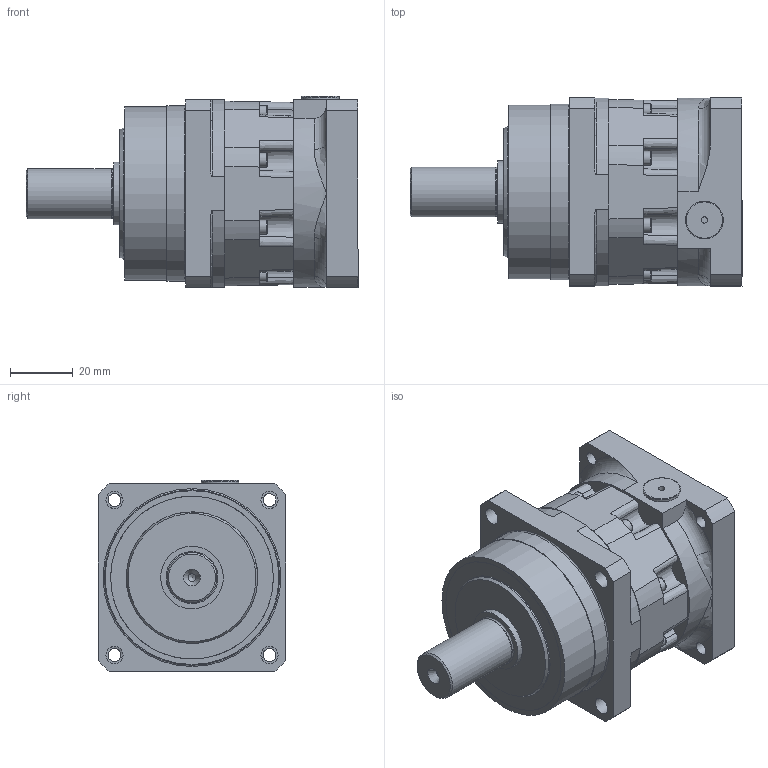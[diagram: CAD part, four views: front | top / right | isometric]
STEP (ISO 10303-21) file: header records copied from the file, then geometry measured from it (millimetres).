
FILE_DESCRIPTION(/* description */ ('ANFX-P110N-1-2R'),/* implementation_level */ '2;1');
FILE_NAME(/* name */ 'C:\Users\ADMINI~1\AppData\Local\Temp\MM580045_ANFX-P110N-1-2R.stp',/* time_stamp */ '2018-06-20T09:10:17+02:00',/* author */ ('Berger'),/* organization */ (''),/* preprocessor_version */ 'ST-DEVELOPER v17',/* originating_system */ 'Autodesk Inventor 2018',/* authorisation */ '');
FILE_SCHEMA (('AUTOMOTIVE_DESIGN { 1 0 10303 214 3 1 1 }'));
Length unit declared in the file: millimetre
Products named in the file (16): MM581710; MMBG0004130; MMCL239LG; MMCL433LG; MAW8353G; MAX4839G; MMBG0004131; MMCH473LG; MMAP6508G; 009M004R012NG; 202119; ISO 4762 - M2,5 x 16; 530N20357---G; 135352; MAW8386G; M009M004R022NG
Assembly tree (25 placements, depth 3):
  MM581710
    MMBG0004130
      MMCL239LG
      MMCL433LG
      MAW8353G
      MAX4839G
    MMBG0004131
      MMCH473LG
      MMAP6508G
      009M004R012NG
      202119
      ISO 4762 - M2,5 x 16  x8
      530N20357---G
    135352
    MAW8386G
    M009M004R022NG  x4
Bounding box: 106 x 60 x 61 mm (x, y, z)
Volume: 149664.6 mm3; surface area: 81874 mm2
Topology: 92 solids, 93 shells, 605 faces, 1731 edges, 1213 vertices
Faces by surface type: plane 227, cylinder 154, cone 82, sphere 68, torus 52, bspline 22
Full cylindrical faces by diameter (mm): 2 x1, 2.013 x8, 2.459 x1, 2.5 x9, 3 x8, 3.242 x9, 4 x5, 4.134 x4, 4.5 x13, 5.5 x4, 7 x5, 8 x5, 9.8 x1, 10.2 x1, 10.4 x1, 12 x2, 14.5 x1, 16 x1, 17.5 x1, 19 x1, 19.4 x1, 19.6 x1, 20 x3, 20.5 x1, 25.172 x2, 27.5 x4, 28 x1, 32 x1, 32.2 x1, 35 x2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
Entity records: 18449 total; most frequent: CARTESIAN_POINT 5688, DIRECTION 2692, ORIENTED_EDGE 2342, AXIS2_PLACEMENT_3D 1183, EDGE_CURVE 1171, VERTEX_POINT 932, CIRCLE 706, EDGE_LOOP 577
